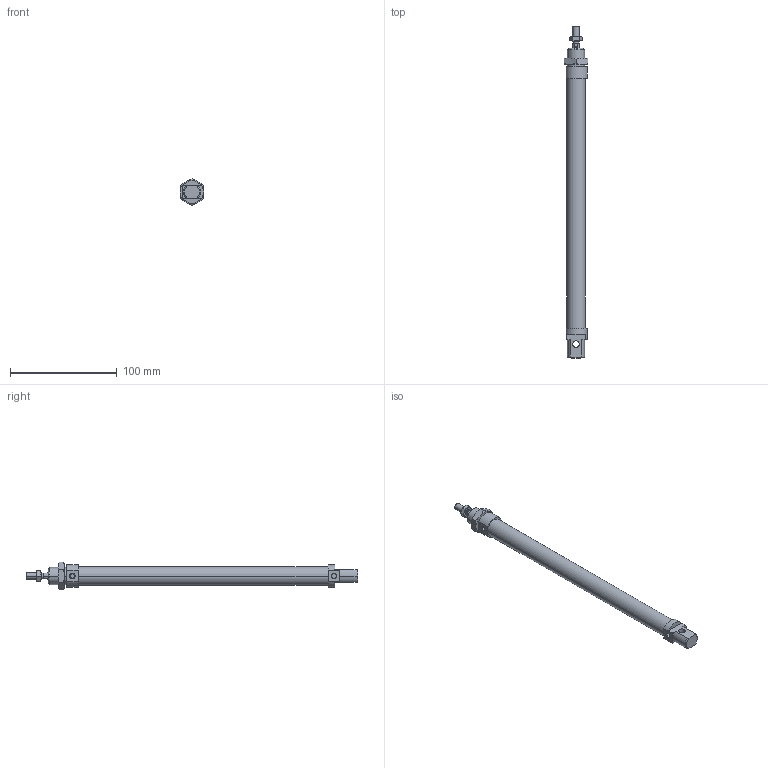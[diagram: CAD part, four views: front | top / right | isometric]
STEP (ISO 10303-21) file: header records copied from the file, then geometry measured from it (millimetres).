
FILE_DESCRIPTION((''),'2;1');
FILE_NAME('I:\DOC-EDP\Lib-3d\1200\CILINDRI\1280\1280_16_0200.stp','2003-04-07T15:05:33',('maffial1'),(''),'Autodesk Inventor (R) 6.0','Autodesk Inventor (R) 6.0','');
FILE_SCHEMA(('AUTOMOTIVE_DESIGN { 1 0 10303 214 1 1 1 1 }'));
Length unit declared in the file: millimetre
Products named in the file (5): 1280_16_0200; S1280_16_200; 1200_16_05; 1200_16_06; C1280_16_200
Assembly tree (4 placements, depth 2):
  1280_16_0200
    S1280_16_200
    1200_16_05
    1200_16_06
    C1280_16_200
Bounding box: 22 x 311 x 25.4 mm (x, y, z)
Volume: 69331.3 mm3; surface area: 27393.7 mm2
Topology: 4 solids, 4 shells, 121 faces, 268 edges, 162 vertices
Faces by surface type: cone 40, plane 39, cylinder 22, bspline 20
Entity records: 3653 total; most frequent: CARTESIAN_POINT 976, DIRECTION 556, ORIENTED_EDGE 536, EDGE_CURVE 268, AXIS2_PLACEMENT_3D 230, VERTEX_POINT 162, EDGE_LOOP 134, FACE_OUTER_BOUND 121
